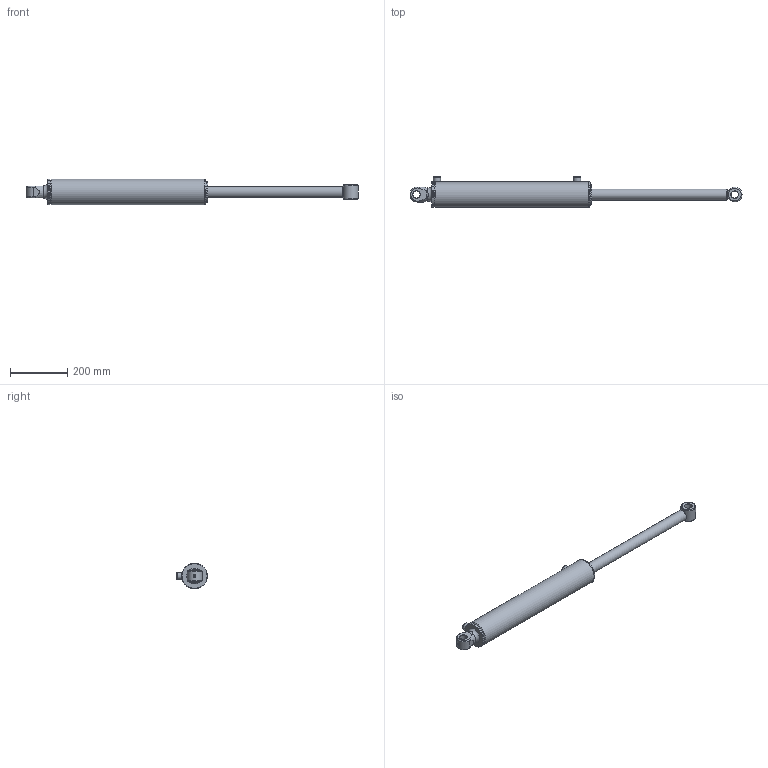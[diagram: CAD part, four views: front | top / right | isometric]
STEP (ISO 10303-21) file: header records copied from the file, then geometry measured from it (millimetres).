
FILE_DESCRIPTION(/* description */ ('Alibre Inc.'),/* implementation_level */ '2;1');
FILE_NAME(/* name */ 'export0',/* time_stamp */ '2016-08-16T10:01:36+12:00',/* author */ (''),/* organization */ (''),/* preprocessor_version */ 'ST-DEVELOPER v14',/* originating_system */ 'Alibre',/* authorisation */ '');
FILE_SCHEMA (('AUTOMOTIVE_DESIGN'));
Length unit declared in the file: centimetre
Bounding box: 1157.13 x 106.9 x 88.9 mm (x, y, z)
Volume: 2034004.3 mm3; surface area: 465179.3 mm2
Topology: 12 solids, 12 shells, 157 faces, 332 edges, 209 vertices
Faces by surface type: cylinder 61, plane 57, cone 23, torus 13, sphere 2, bspline 1
Full cylindrical faces by diameter (mm): 7 x1, 8.3 x2, 8.8 x1, 9.525 x2, 15.25 x2, 23 x1, 23.622 x1, 25 x2, 25.4 x2, 25.451 x1, 38.1 x2, 38.18 x2, 44.45 x1, 46.9 x2, 47.62 x2, 50.8 x1, 60.33 x1, 69.2 x1, 70.36 x1, 71.6 x2, 72.57 x2, 72.87 x1, 74.83 x2, 76.09 x2, 76.1 x1, 76.2 x2, 79.4 x1, 88.9 x3
Entity records: 4365 total; most frequent: CARTESIAN_POINT 1210, DIRECTION 599, ORIENTED_EDGE 456, AXIS2_PLACEMENT_3D 310, FACE_BOUND 271, EDGE_LOOP 269, EDGE_CURVE 228, VERTEX_POINT 191
